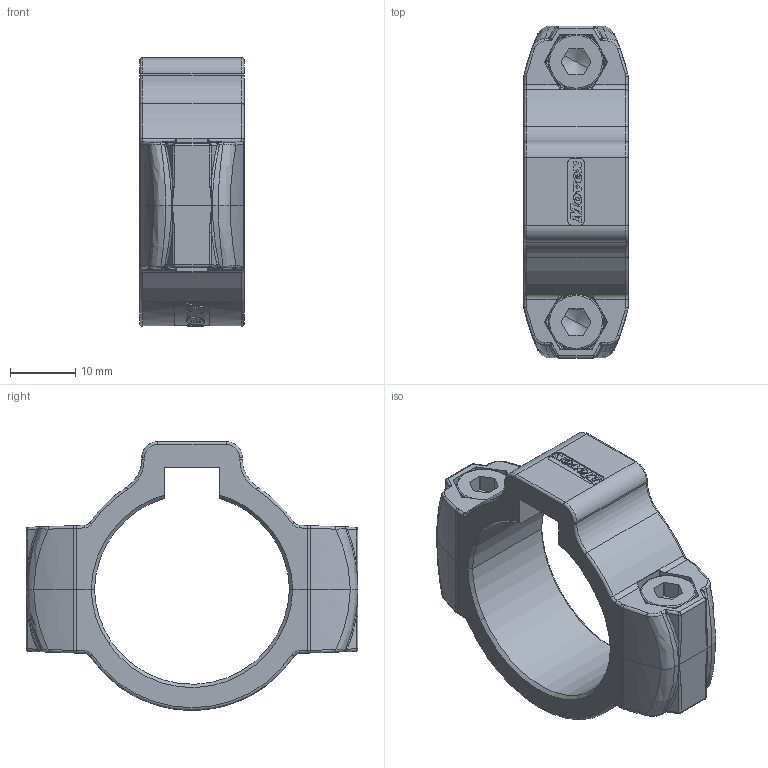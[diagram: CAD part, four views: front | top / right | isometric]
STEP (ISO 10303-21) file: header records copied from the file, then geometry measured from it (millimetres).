
FILE_DESCRIPTION(('CATIA V5 STEP Exchange'),'2;1');
FILE_NAME('X:\CODICI MOVEX\3D per clienti\3D definitivi\Part 200\P22102_01.stp','2016-07-14T15:43:06+00:00',('none'),('none'),'Version 5-6 Release 2012','CATIA V5 STEP AP203','none');
FILE_SCHEMA(('CONFIG_CONTROL_DESIGN'));
Length unit declared in the file: millimetre
Products named in the file (1): P22102_01
Assembly tree (6 placements, depth 2):
  P22102_01
    #58
    #27754
    #53351  x2
    #54292  x2
Bounding box: 16 x 51 x 41.3 mm (x, y, z)
Volume: 10738.5 mm3; surface area: 8138.3 mm2
Topology: 6 solids, 6 shells, 1503 faces, 4139 edges, 2639 vertices
Faces by surface type: plane 1022, cylinder 229, bspline 136, torus 66, cone 34, extrusion 8, sphere 8
Entity records: 54767 total; most frequent: CARTESIAN_POINT 21221, ORIENTED_EDGE 7992, DIRECTION 5147, EDGE_CURVE 3996, VERTEX_POINT 2567, VECTOR 2245, LINE 2237, AXIS2_PLACEMENT_3D 1660
